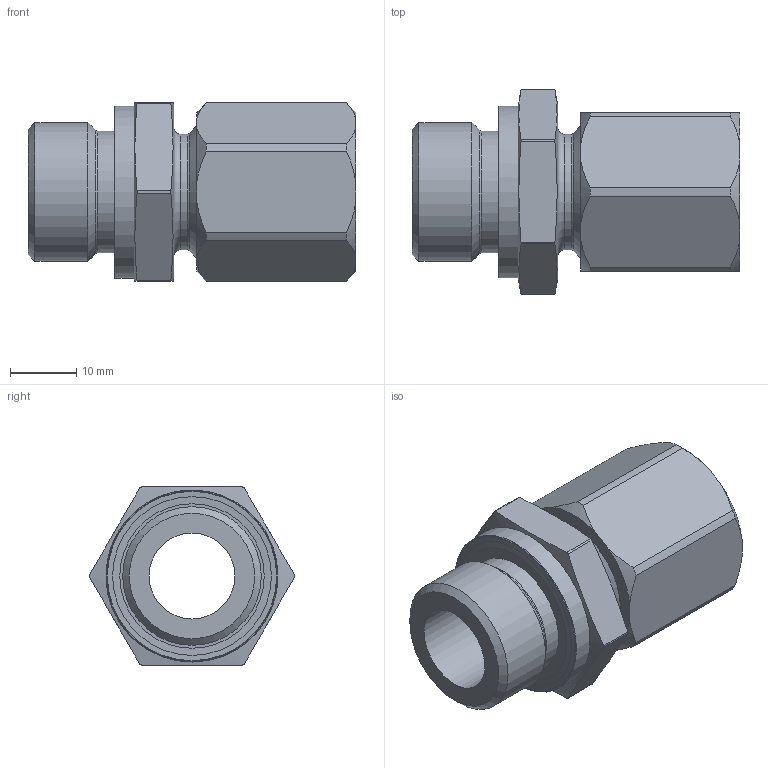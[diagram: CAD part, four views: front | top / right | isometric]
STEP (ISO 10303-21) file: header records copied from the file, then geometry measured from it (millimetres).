
FILE_DESCRIPTION(/* description */ (''),/* implementation_level */ '2;1');
FILE_NAME(/* name */ 'DGV_572177.jt.stp',/* time_stamp */ '2025-09-24T13:02:58+02:00',/* author */ (''),/* organization */ (''),/* preprocessor_version */ 'ST-DEVELOPER v19.4',/* originating_system */ 'SIEMENS PLM Software NX2306.8501',/* authorisation */ '');
FILE_SCHEMA (('AP203_CONFIGURATION_CONTROLLED_3D_DESIGN_OF_MECHANICAL_PARTS_AND_ASSEMBLIES_MIM_LF { 1 0 10303 403 2 1 2}'));
Length unit declared in the file: millimetre
Products named in the file (1): 01_objects
Bounding box: 49.5 x 31 x 27 mm (x, y, z)
Volume: 14969.3 mm3; surface area: 7367.6 mm2
Topology: 1 solids, 1 shells, 74 faces, 185 edges, 119 vertices
Faces by surface type: cone 25, cylinder 21, plane 20, torus 8
Full cylindrical faces by diameter (mm): 13 x1, 15 x1, 15.23 x3, 17.5 x1, 18.4 x1, 20.96 x1, 26 x1
Entity records: 2094 total; most frequent: CARTESIAN_POINT 435, DIRECTION 330, ORIENTED_EDGE 288, AXIS2_PLACEMENT_3D 147, EDGE_CURVE 144, EDGE_LOOP 112, VERTEX_POINT 108, FACE_BOUND 76
